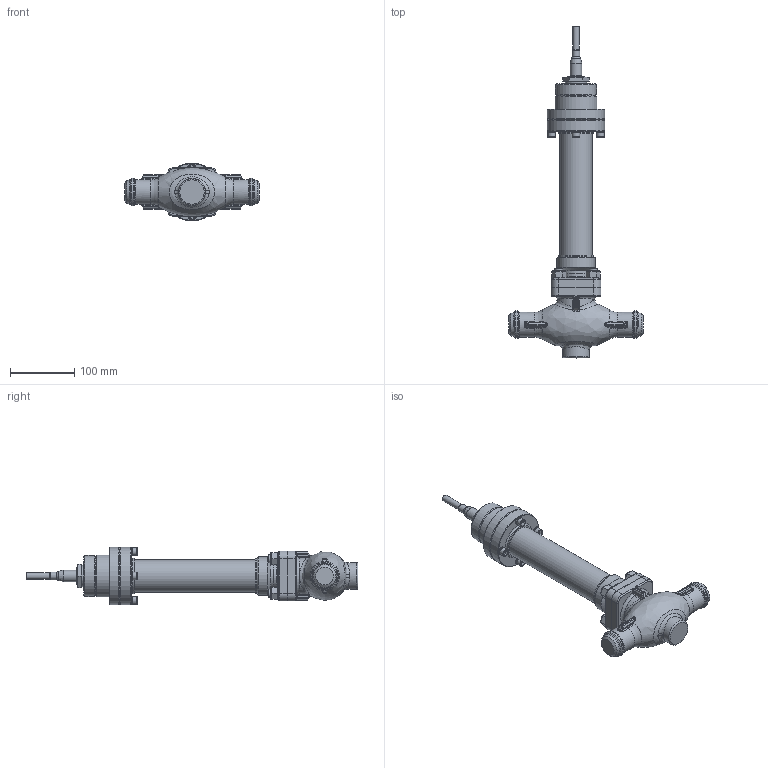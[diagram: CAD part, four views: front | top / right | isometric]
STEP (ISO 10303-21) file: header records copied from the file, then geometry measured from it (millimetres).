
FILE_DESCRIPTION(/* description */ (''),/* implementation_level */ '2;1');
FILE_NAME(/* name */ 'CV3xx_NPS_1_privarovaci_vlnovec.stp',/* time_stamp */ '2015-08-11T10:11:37+02:00',/* author */ (''),/* organization */ (''),/* preprocessor_version */ 'ST-DEVELOPER v15',/* originating_system */ 'SIEMENS PLM Software NX 8.5',/* authorisation */ '');
FILE_SCHEMA (('AP203_CONFIGURATION_CONTROLLED_3D_DESIGN_OF_MECHANICAL_PARTS_AND_ASSEMBLIES_MIM_LF { 1 0 10303 403 2 1 2}'));
Length unit declared in the file: millimetre
Products named in the file (1): adam1354300Cula0
Bounding box: 210 x 518 x 90 mm (x, y, z)
Volume: 1564857.4 mm3; surface area: 157560.3 mm2
Topology: 1 solids, 1 shells, 577 faces, 1343 edges, 789 vertices
Faces by surface type: plane 171, cylinder 163, cone 91, bspline 84, torus 44, sphere 24
Full cylindrical faces by diameter (mm): 7 x4, 7.76 x4, 9 x4, 10 x1, 11.64 x4, 12 x9, 14 x4, 18 x1, 19 x8, 27 x1, 33 x1, 39 x2, 41 x1, 42 x2, 43 x2, 50 x1, 50.3 x2, 55 x2, 58 x2, 60 x1, 61.6 x1, 64 x1, 65 x1, 90 x2
Entity records: 17674 total; most frequent: CARTESIAN_POINT 5933, DIRECTION 2390, ORIENTED_EDGE 2300, EDGE_CURVE 1150, AXIS2_PLACEMENT_3D 1029, EDGE_LOOP 750, VERTEX_POINT 724, ADVANCED_FACE 577
